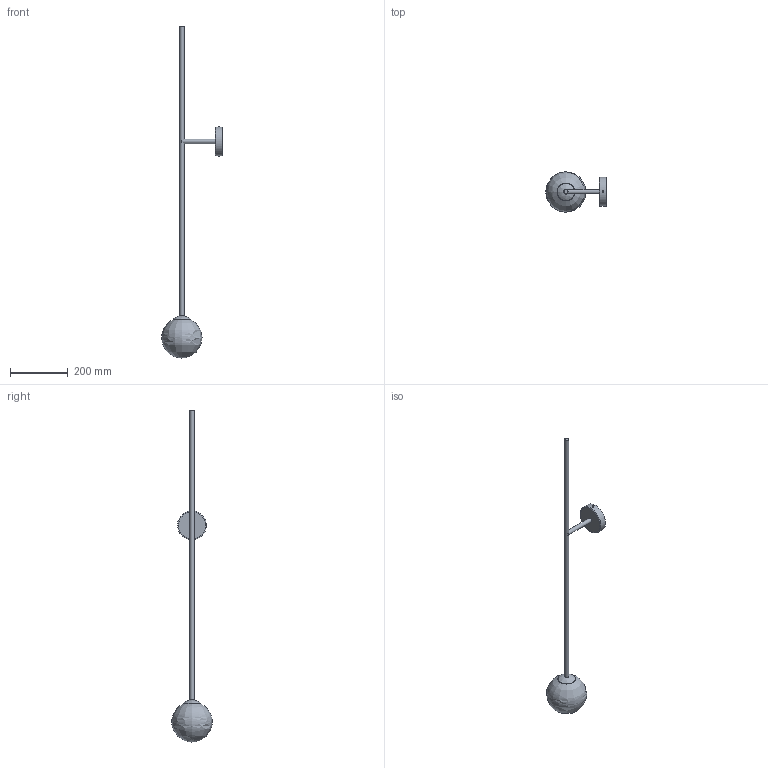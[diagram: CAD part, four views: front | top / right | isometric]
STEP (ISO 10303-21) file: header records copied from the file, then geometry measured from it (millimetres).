
FILE_DESCRIPTION ((), '1');
FILE_NAME ('C:\Users\MiCHAL\Desktop\ALDEX - Modele 3D 28.09.2022\1080C1\1080C1\1080C1.stp', '2022-11-04T04:36:50', ('Unknown'), ('Unknown'), 'HarmonyWare STEP v2.1.4', 'HarmonyWare Translators', '');
FILE_SCHEMA (('CONFIG_CONTROL_DESIGN'));
Length unit declared in the file: centimetre
Assembly tree (7 placements, depth 2):
  (unnamed)
    (unnamed)
    (unnamed)
    (unnamed)
    (unnamed)
    (unnamed)
    (unnamed)
    (unnamed)
Bounding box: 209.96 x 140 x 1149.79 mm (x, y, z)
Volume: 1850921.7 mm3; surface area: 144930.7 mm2
Topology: 7 solids, 7 shells, 24 faces, 43 edges, 37 vertices
Faces by surface type: bspline 24
Entity records: 2268 total; most frequent: CARTESIAN_POINT 885, PERSON 78, ORGANIZATION 78, PERSON_AND_ORGANIZATION 78, ORIENTED_EDGE 60, CALENDAR_DATE 54, COORDINATED_UNIVERSAL_TIME_OFFSET 54, LOCAL_TIME 54
